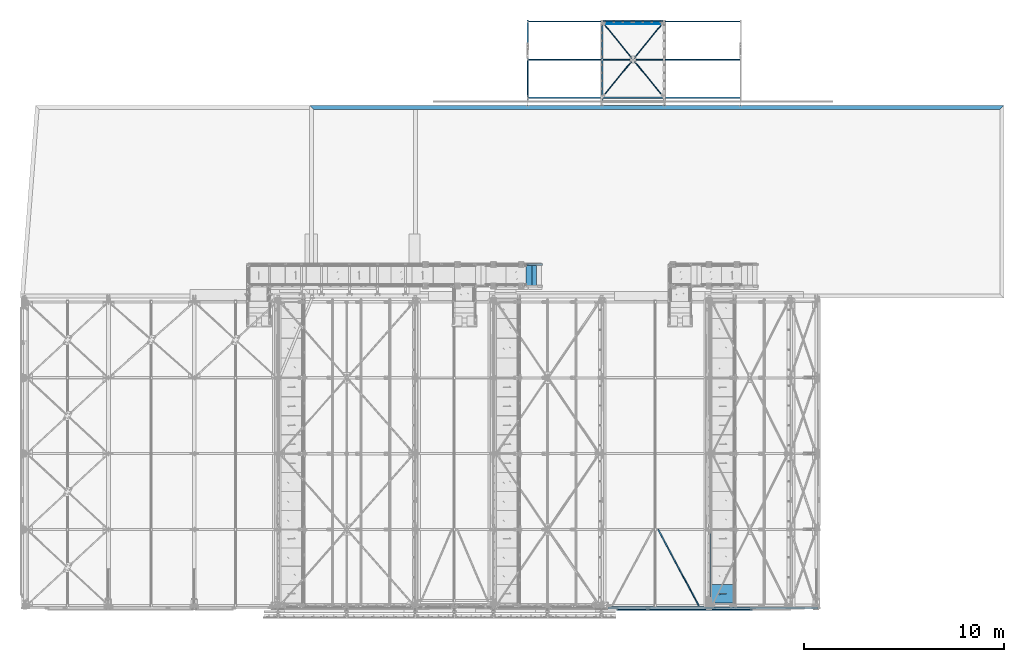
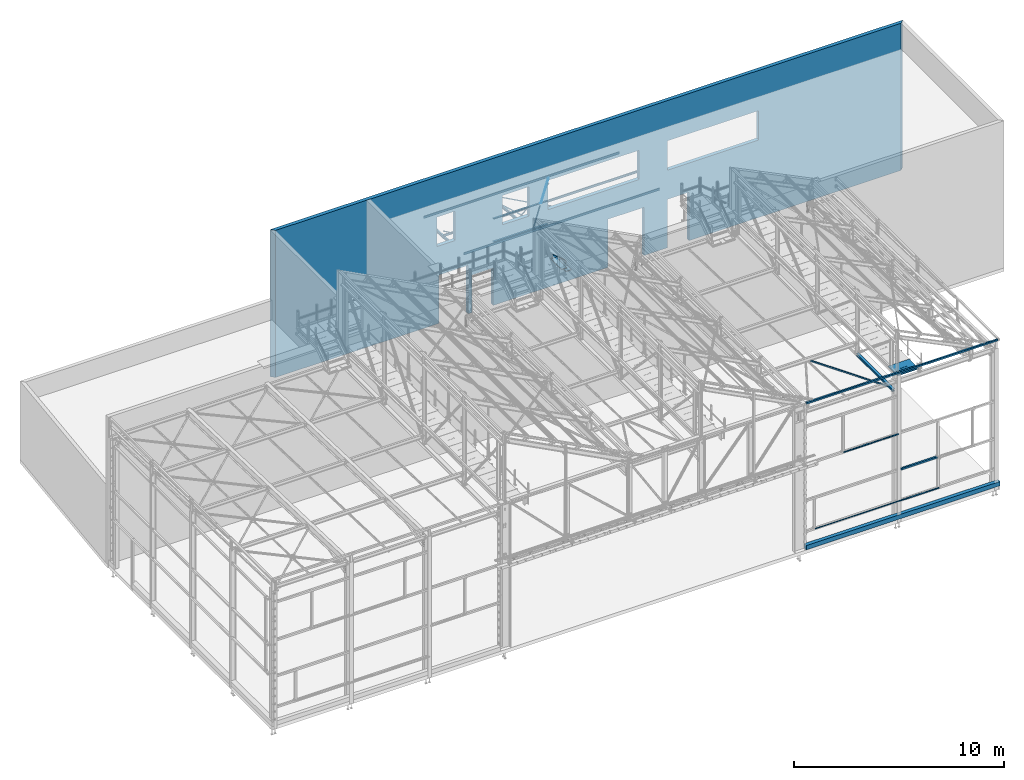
# One storey, part 54 of 362: 23 beams, 4 members, 27 elements without a shape of their own.
"""IFC2X3 building model written with IfcOpenShell, lengths in millimetres."""

from ifc_helpers import new_model, si_unit, frame, frame_2d, origin_with_axes, origin_2d_with_axis, place, context, subcontext, project, spatial, polyline, circle_curve, parameter, trimmed, segment, composite_curve, rectangle, hollow_rectangle, hollow_circle, i_section, l_section, u_section, outline, extrude, boolean, clip, halfspace, material, type_object, element, aggregate, save


model = new_model("IFC2X3")

# Units and contexts
model_context = context("Model", 3, precision=1e-05, world=origin_with_axes())
body_context = subcontext(model_context, "Body", "Model", "MODEL_VIEW")
ifc_project = project(units=[si_unit("LENGTHUNIT", "METRE", prefix="MILLI"), si_unit("AREAUNIT", "SQUARE_METRE"), si_unit("VOLUMEUNIT", "CUBIC_METRE"), si_unit("MASSUNIT", "GRAM", prefix="KILO"), si_unit("TIMEUNIT", "SECOND"), si_unit("PLANEANGLEUNIT", "RADIAN"), si_unit("SOLIDANGLEUNIT", "STERADIAN"), si_unit("THERMODYNAMICTEMPERATUREUNIT", "DEGREE_CELSIUS"), si_unit("LUMINOUSINTENSITYUNIT", "LUMEN")], contexts=[model_context])

# Site, building, storey
site_placement = place(None, origin_with_axes())
site = spatial("IfcSite", under=ifc_project, at=site_placement, Name="Undefined", CompositionType="ELEMENT")
building_placement = place(site_placement, origin_with_axes())
building = spatial("IfcBuilding", under=site, at=building_placement, Name="Undefined", CompositionType="ELEMENT")
storey_placement = place(building_placement, origin_with_axes())
storey = spatial("IfcBuildingStorey", under=building, at=storey_placement, Name="Undefined", CompositionType="ELEMENT", Elevation=0.0)

# Assembly, beam
assembly_1_placement = place(storey_placement, origin_with_axes())
assembly_1 = element("IfcElementAssembly", 1, at=assembly_1_placement, inside=storey, AssemblyPlace="NOTDEFINED", PredefinedType="NOTDEFINED")
ifc_material_1 = material(Name="Undefined/S235-E24")
beam_type_1 = type_object("IfcBeamType", Name="L50*5", PredefinedType="NOTDEFINED")
beam_1_placement = place(assembly_1_placement, frame((33741.464794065, -6.80950368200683, 7825.10982356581), z_axis=(0.882450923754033, 0.470172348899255, -0.0147759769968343), x_axis=(-0.470404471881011, 0.882015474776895, -0.0277188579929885)))
beam_1 = element("IfcBeam", 2, at=beam_1_placement, type_object=beam_type_1, material=ifc_material_1, Name="LIERNE", ObjectType="L50*5", context=body_context, shape_type="SweptSolid", body=[
    extrude(l_section(Depth=50.0, Width=50.0, Thickness=5.0, FilletRadius=7.0, EdgeRadius=3.5, at=origin_2d_with_axis()), frame((4311.66025859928, -2.99181530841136e-14, 1.4211122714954e-13), z_axis=(-1.0, 0.0, 0.0), x_axis=(0.0, -1.0, 0.0)), (0.0, 0.0, 1.0), 4311.66),
])
aggregate(assembly_1, [beam_1])

# Assembly, member
assembly_2_placement = place(storey_placement, origin_with_axes())
assembly_2 = element("IfcElementAssembly", 3, at=assembly_2_placement, inside=storey, AssemblyPlace="NOTDEFINED", PredefinedType="NOTDEFINED")
ifc_material_2 = material(Name="Undefined/S275-E28")
member_type_1 = type_object("IfcMemberType", Name="UPN260", PredefinedType="NOTDEFINED")
member_1_placement = place(assembly_2_placement, frame((25121.7760182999, 17074.9998774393, 8010.13117439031), z_axis=(-0.640184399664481, 0.0, -0.768221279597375), x_axis=(0.768221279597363, 0.0, -0.640184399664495)))
member_1 = element("IfcMember", 4, at=member_1_placement, type_object=member_type_1, material=ifc_material_2, Name="LIMON", ObjectType="UPN260", context=body_context, shape_type="Clipping", body=[
    clip(clip(clip(extrude(u_section(Depth=260.0, FlangeWidth=90.0, WebThickness=10.0, FlangeThickness=14.0, FilletRadius=14.0, EdgeRadius=7.0, FlangeSlope=0.0798299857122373, at=origin_2d_with_axis()), frame((1142.89283280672, 0.0, 1.26886593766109e-13), z_axis=(-1.0, 0.0, 0.0), x_axis=(0.0, -1.0, 0.0)), (0.0, 0.0, 1.0), 1237.09), halfspace(frame((897.20366260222, 45.0, -149.914659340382), z_axis=(0.768221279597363, 0.0, -0.640184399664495), x_axis=(0.640184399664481, 0.0, 0.768221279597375)), False)), halfspace(frame((1215.15534850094, 45.0, -189.778996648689), z_axis=(0.640184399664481, 0.0, 0.768221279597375), x_axis=(-0.768221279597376, 0.0, 0.640184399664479)), False)), halfspace(frame((94.1329831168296, 1045.00000000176, 130.000000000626), z_axis=(-0.940271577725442, 0.0, 0.340425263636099), x_axis=(0.0, -1.0, 0.0)), False)),
])
aggregate(assembly_2, [member_1])

# Assembly, beam
assembly_3_placement = place(storey_placement, origin_with_axes())
assembly_3 = element("IfcElementAssembly", 5, at=assembly_3_placement, inside=storey, Name="MARCHE", AssemblyPlace="NOTDEFINED", PredefinedType="NOTDEFINED")
beam_type_2 = type_object("IfcBeamType", Name="PL30*994", PredefinedType="NOTDEFINED")
beam_2_placement = place(assembly_3_placement, frame((25624.9999902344, 16530.001494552, 7695.0), z_axis=(0.0, 1.0, 0.0), x_axis=(-1.0, 0.0, 0.0)))
beam_2 = element("IfcBeam", 6, at=beam_2_placement, type_object=beam_type_2, material=ifc_material_1, Name="MARCHE", ObjectType="PL30*994", context=body_context, shape_type="SweptSolid", body=[
    extrude(rectangle(XDim=30.0, YDim=994.0, at=origin_2d_with_axis()), frame((290.0, 0.0, 0.0), z_axis=(-1.0, 0.0, 0.0), x_axis=(0.0, -1.0, 0.0)), (0.0, 0.0, 1.0), 290.0),
])
aggregate(assembly_3, [beam_2])

assembly_4_placement = place(storey_placement, origin_with_axes())
assembly_4 = element("IfcElementAssembly", 7, at=assembly_4_placement, inside=storey, Name="MARCHE", AssemblyPlace="NOTDEFINED", PredefinedType="NOTDEFINED")
beam_3_placement = place(assembly_4_placement, frame((25384.9999902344, 16530.001494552, 7894.9999407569), z_axis=(0.0, 1.0, 0.0), x_axis=(-1.0, 0.0, 0.0)))
beam_3 = element("IfcBeam", 8, at=beam_3_placement, type_object=beam_type_2, material=ifc_material_1, Name="MARCHE", ObjectType="PL30*994", context=body_context, shape_type="SweptSolid", body=[
    extrude(rectangle(XDim=30.0, YDim=994.0, at=origin_2d_with_axis()), frame((290.0, 0.0, 0.0), z_axis=(-1.0, 0.0, 0.0), x_axis=(0.0, -1.0, 0.0)), (0.0, 0.0, 1.0), 290.0),
])
aggregate(assembly_4, [beam_3])

assembly_5_placement = place(storey_placement, origin_with_axes())
assembly_5 = element("IfcElementAssembly", 9, at=assembly_5_placement, inside=storey, Name="LISSE", AssemblyPlace="NOTDEFINED", PredefinedType="NOTDEFINED")
beam_type_3 = type_object("IfcBeamType", Name="UPF-100*50*4", PredefinedType="NOTDEFINED")
beam_4_placement = place(assembly_5_placement, frame((31952.9999389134, 29270.0000892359, 1465.0), z_axis=(0.0, 1.0, 0.0), x_axis=(-1.0, 0.0, 0.0)))
beam_4 = element("IfcBeam", 10, at=beam_4_placement, type_object=beam_type_3, material=ifc_material_1, Name="LISSE", ObjectType="UPF-100*50*4", context=body_context, shape_type="SweptSolid", body=[
    extrude(u_section(Depth=100.0, FlangeWidth=50.0, WebThickness=4.0, FlangeThickness=4.0, at=origin_2d_with_axis()), frame((2999.99999402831, 0.0, 0.0), z_axis=(-1.0, 0.0, 0.0), x_axis=(0.0, -1.0, 0.0)), (0.0, 0.0, 1.0), 3000.0),
])
aggregate(assembly_5, [beam_4])

assembly_6_placement = place(storey_placement, origin_with_axes())
assembly_6 = element("IfcElementAssembly", 11, at=assembly_6_placement, inside=storey, Name="LISSE", AssemblyPlace="NOTDEFINED", PredefinedType="NOTDEFINED")
beam_5_placement = place(assembly_6_placement, frame((31952.9999389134, 29270.0000892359, 124.999999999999), z_axis=(0.0, 1.0, 0.0), x_axis=(-1.0, 0.0, 0.0)))
beam_5 = element("IfcBeam", 12, at=beam_5_placement, type_object=beam_type_3, material=ifc_material_1, Name="LISSE", ObjectType="UPF-100*50*4", context=body_context, shape_type="SweptSolid", body=[
    extrude(u_section(Depth=100.0, FlangeWidth=50.0, WebThickness=4.0, FlangeThickness=4.0, at=origin_2d_with_axis()), frame((2999.99999402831, 0.0, 0.0), z_axis=(-1.0, 0.0, 0.0), x_axis=(0.0, -1.0, 0.0)), (0.0, 0.0, 1.0), 3000.0),
])
aggregate(assembly_6, [beam_5])

assembly_7_placement = place(storey_placement, origin_with_axes())
assembly_7 = element("IfcElementAssembly", 13, at=assembly_7_placement, inside=storey, Name="LISSE", AssemblyPlace="NOTDEFINED", PredefinedType="NOTDEFINED")
beam_type_4 = type_object("IfcBeamType", Name="TUBE-C-100*100*4", PredefinedType="NOTDEFINED")
beam_6_placement = place(assembly_7_placement, frame((34384.9999991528, -129.999801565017, 2849.99996535), z_axis=(0.0, 0.0, -1.0), x_axis=(1.0, 0.0, 0.0)))
beam_6 = element("IfcBeam", 14, at=beam_6_placement, type_object=beam_type_4, material=ifc_material_1, Name="LISSE CHASSIS", ObjectType="TUBE-C-100*100*4", context=body_context, shape_type="SweptSolid", body=[
    extrude(hollow_rectangle(XDim=100.0, YDim=100.0, WallThickness=4.0, InnerFilletRadius=4.0, OuterFilletRadius=8.0, at=origin_2d_with_axis()), frame((2005.00258543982, 5.68434172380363e-14, 0.0), z_axis=(-1.0, 0.0, 0.0), x_axis=(0.0, -1.0, 0.0)), (0.0, 0.0, 1.0), 2005.0),
])
aggregate(assembly_7, [beam_6])

assembly_8_placement = place(storey_placement, origin_with_axes())
assembly_8 = element("IfcElementAssembly", 15, at=assembly_8_placement, inside=storey, Name="LISSE", AssemblyPlace="NOTDEFINED", PredefinedType="NOTDEFINED")
beam_7_placement = place(assembly_8_placement, frame((29190.0, -130.0, 8500.0), z_axis=(0.0, 0.0, 1.0), x_axis=(1.0, 0.0, 0.0)))
beam_7 = element("IfcBeam", 16, at=beam_7_placement, type_object=beam_type_4, material=ifc_material_1, Name="LISSE ACROTERE", ObjectType="TUBE-C-100*100*4", context=body_context, shape_type="SweptSolid", body=[
    extrude(hollow_rectangle(XDim=100.0, YDim=100.0, WallThickness=4.0, InnerFilletRadius=4.0, OuterFilletRadius=8.0, at=origin_2d_with_axis()), frame((10525.0, 0.0, 0.0), z_axis=(-1.0, 0.0, 0.0), x_axis=(0.0, -1.0, 0.0)), (0.0, 0.0, 1.0), 10525.0),
])
aggregate(assembly_8, [beam_7])

assembly_9_placement = place(storey_placement, origin_with_axes())
assembly_9 = element("IfcElementAssembly", 17, at=assembly_9_placement, inside=storey, AssemblyPlace="NOTDEFINED", PredefinedType="NOTDEFINED")
beam_type_5 = type_object("IfcBeamType", Name="L40*4", PredefinedType="NOTDEFINED")
beam_8_placement = place(assembly_9_placement, frame((30451.4469799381, 27335.0746857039, 2960.81333331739), z_axis=(0.776487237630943, -0.629270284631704, 0.0329617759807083), x_axis=(-0.630132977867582, -0.775424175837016, 0.0406174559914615)))
beam_8 = element("IfcBeam", 18, at=beam_8_placement, type_object=beam_type_5, material=ifc_material_1, Name="STABILITE CVT", ObjectType="L40*4", context=body_context, shape_type="Clipping", body=[
    clip(clip(extrude(l_section(Depth=40.0, Width=40.0, Thickness=4.0, FilletRadius=6.0, EdgeRadius=3.0, at=origin_2d_with_axis()), frame((2362.85080746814, -9.09494701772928e-13, -1.10316738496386e-12), z_axis=(-1.0, 0.0, 0.0), x_axis=(0.0, -1.0, 0.0)), (0.0, 0.0, 1.0), 2298.17), halfspace(frame((2320.08744063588, 182.999996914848, -19.9999998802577), z_axis=(1.0, 0.0, 0.0), x_axis=(0.0, -1.0, 0.0)), False)), halfspace(frame((107.441568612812, 182.999997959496, -19.9999998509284), z_axis=(1.0, 0.0, 0.0), x_axis=(0.0, -1.0, 0.0)), True)),
])
aggregate(assembly_9, [beam_8])

assembly_10_placement = place(storey_placement, origin_with_axes())
assembly_10 = element("IfcElementAssembly", 19, at=assembly_10_placement, inside=storey, AssemblyPlace="NOTDEFINED", PredefinedType="NOTDEFINED")
beam_9_placement = place(assembly_10_placement, frame((30454.5529285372, 27335.0746863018, 2960.81333329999), z_axis=(-3.30331196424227e-10, 0.0523092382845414, 0.998630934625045), x_axis=(0.630132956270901, -0.775424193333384, 0.0406174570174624)))
beam_9 = element("IfcBeam", 20, at=beam_9_placement, type_object=beam_type_5, material=ifc_material_1, Name="STABILITE CVT", ObjectType="L40*4", context=body_context, shape_type="Clipping", body=[
    clip(clip(extrude(l_section(Depth=40.0, Width=40.0, Thickness=4.0, FilletRadius=6.0, EdgeRadius=3.0, at=origin_2d_with_axis()), frame((2362.85080746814, -9.09494701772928e-13, -1.10316738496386e-12), z_axis=(-1.0, 0.0, 0.0), x_axis=(0.0, -1.0, 0.0)), (0.0, 0.0, 1.0), 2298.17), halfspace(frame((2320.08744489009, 19.9999999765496, -182.999998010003), z_axis=(-1.0, 0.0, 0.0), x_axis=(0.0, 0.0, 1.0)), True)), halfspace(frame((107.441569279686, 19.9999999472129, -182.999998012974), z_axis=(-1.0, 0.0, 0.0), x_axis=(0.0, 0.0, 1.0)), False)),
])
aggregate(assembly_10, [beam_9])

assembly_11_placement = place(storey_placement, origin_with_axes())
assembly_11 = element("IfcElementAssembly", 21, at=assembly_11_placement, inside=storey, AssemblyPlace="NOTDEFINED", PredefinedType="NOTDEFINED")
beam_10_placement = place(assembly_11_placement, frame((28901.4469646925, 29239.9446364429, 2861.03443346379), z_axis=(0.776487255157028, 0.629270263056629, -0.0329617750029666), x_axis=(0.630132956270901, -0.775424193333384, 0.0406174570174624)))
beam_10 = element("IfcBeam", 22, at=beam_10_placement, type_object=beam_type_5, material=ifc_material_1, Name="STABILITE CVT", ObjectType="L40*4", context=body_context, shape_type="Clipping", body=[
    clip(clip(extrude(l_section(Depth=40.0, Width=40.0, Thickness=4.0, FilletRadius=6.0, EdgeRadius=3.0, at=origin_2d_with_axis()), frame((2393.69387448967, 0.0, 2.42396172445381e-13), z_axis=(-1.0, 0.0, 0.0), x_axis=(0.0, -1.0, 0.0)), (0.0, 0.0, 1.0), 2295.32), halfspace(frame((2352.35665650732, 182.999998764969, -20.0000000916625), z_axis=(1.0, 0.0, 0.0), x_axis=(0.0, -1.0, 0.0)), False)), halfspace(frame((139.710817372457, 182.999998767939, -20.0000001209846), z_axis=(1.0, 0.0, 0.0), x_axis=(0.0, -1.0, 0.0)), True)),
])
aggregate(assembly_11, [beam_10])

assembly_12_placement = place(storey_placement, origin_with_axes())
assembly_12 = element("IfcElementAssembly", 23, at=assembly_12_placement, inside=storey, AssemblyPlace="NOTDEFINED", PredefinedType="NOTDEFINED")
beam_11_placement = place(assembly_12_placement, frame((32004.5529154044, 29239.9446581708, 2861.03443352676), z_axis=(-3.30331196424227e-10, 0.0523092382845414, 0.998630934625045), x_axis=(-0.630132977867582, -0.775424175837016, 0.0406174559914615)))
beam_11 = element("IfcBeam", 24, at=beam_11_placement, type_object=beam_type_5, material=ifc_material_1, Name="STABILITE CVT", ObjectType="L40*4", context=body_context, shape_type="Clipping", body=[
    clip(clip(extrude(l_section(Depth=40.0, Width=40.0, Thickness=4.0, FilletRadius=6.0, EdgeRadius=3.0, at=origin_2d_with_axis()), frame((2393.69387448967, 0.0, 2.42396172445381e-13), z_axis=(-1.0, 0.0, 0.0), x_axis=(0.0, -1.0, 0.0)), (0.0, 0.0, 1.0), 2295.32), halfspace(frame((2352.35665617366, 20.0000000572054, -182.999998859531), z_axis=(-1.0, 0.0, 0.0), x_axis=(0.0, 0.0, 1.0)), True)), halfspace(frame((139.710821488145, 20.0000000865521, -182.999999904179), z_axis=(-1.0, 0.0, 0.0), x_axis=(0.0, 0.0, 1.0)), False)),
])
aggregate(assembly_12, [beam_11])

# Assembly, member
assembly_13_placement = place(storey_placement, origin_with_axes())
assembly_13 = element("IfcElementAssembly", 25, at=assembly_13_placement, inside=storey, AssemblyPlace="NOTDEFINED", PredefinedType="NOTDEFINED")
member_type_2 = type_object("IfcMemberType", Name="TUBE-60.3*3.2", PredefinedType="NOTDEFINED")
member_2_placement = place(assembly_13_placement, frame((25175.0000296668, 25040.0000675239, 4330.0), z_axis=(1.0, 0.0, 0.0), x_axis=(0.0, 0.902342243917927, -0.431020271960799)))
member_2 = element("IfcMember", 26, at=member_2_placement, type_object=member_type_2, material=ifc_material_1, Name="BUTON", ObjectType="TUBE-60.3*3.2", context=body_context, shape_type="CSG", body=[
    boolean("DIFFERENCE", boolean("DIFFERENCE", boolean("DIFFERENCE", boolean("DIFFERENCE", extrude(hollow_circle(Radius=30.14999962, WallThickness=3.200000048, at=origin_2d_with_axis()), frame((3314.61716229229, 0.0, 0.0), z_axis=(-1.0, 0.0, 0.0), x_axis=(0.0, -1.0, 0.0)), (0.0, 0.0, 1.0), 3314.62), extrude(outline(composite_curve([segment(polyline([(0.0, 0.0), (80.00000000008, 8.00355337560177e-11), (80.0000000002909, 219.999999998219)]), True, "CONTINUOUS"), segment(trimmed(circle_curve(frame_2d((40.0000000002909, 219.999999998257), x_axis=(1.0, 0.0)), 40.0), [parameter(0.0)], [parameter(1.57079632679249)], True, "PARAMETER"), True, "CONTINUOUS"), segment(trimmed(circle_curve(frame_2d((40.0000000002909, 219.999999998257), x_axis=(0.0, 1.0)), 40.0), [parameter(0.0)], [parameter(1.57079632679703)], True, "PARAMETER"), True, "CONTINUOUS"), segment(polyline([(2.58576339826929e-10, 219.999999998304), (0.0, 0.0)]), True, "CONTINUOUS")], self_intersect=True)), frame((542.05606881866, 40.000004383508, 5.00000007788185), z_axis=(0.0, 0.0, -1.0), x_axis=(0.0, -1.0, 0.0)), (0.0, 0.0, 1.0), 10.0)), extrude(outline(composite_curve([segment(polyline([(0.0, 0.0), (80.00000000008, 8.00355337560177e-11), (80.0000000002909, 219.999999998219)]), True, "CONTINUOUS"), segment(trimmed(circle_curve(frame_2d((40.0000000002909, 219.999999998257), x_axis=(1.0, 0.0)), 40.0), [parameter(0.0)], [parameter(1.57079632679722)], True, "PARAMETER"), True, "CONTINUOUS"), segment(trimmed(circle_curve(frame_2d((40.0000000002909, 219.999999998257), x_axis=(0.0, 1.0)), 40.0), [parameter(0.0)], [parameter(1.57079632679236)], True, "PARAMETER"), True, "CONTINUOUS"), segment(polyline([(2.58576339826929e-10, 219.999999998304), (0.0, 0.0)]), True, "CONTINUOUS")], self_intersect=True)), frame((2534.92452783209, 40.0000043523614, -5.00000035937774), z_axis=(0.0, 0.0, 1.0), x_axis=(0.0, -1.0, 0.0)), (0.0, 0.0, 1.0), 10.0)), halfspace(frame((422.056068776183, 30.14999962, -30.14999962), z_axis=(-1.0, 0.0, 0.0), x_axis=(0.0, 0.0, 1.0)), False)), halfspace(frame((2654.92452778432, -30.14999962, -30.14999962), z_axis=(1.0, 0.0, 0.0), x_axis=(0.0, 0.0, 1.0)), False)),
])
aggregate(assembly_13, [member_2])

# Assembly, beam
assembly_14_placement = place(storey_placement, origin_with_axes())
assembly_14 = element("IfcElementAssembly", 27, at=assembly_14_placement, inside=storey, AssemblyPlace="NOTDEFINED", PredefinedType="NOTDEFINED")
beam_type_6 = type_object("IfcBeamType", Name="TOLE30*910", PredefinedType="NOTDEFINED")
beam_12_placement = place(assembly_14_placement, frame((35536.4916120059, 1035.00033833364, 8115.0), z_axis=(0.0, 0.0, 1.0), x_axis=(-1.0, 0.0, 0.0)))
beam_12 = element("IfcBeam", 28, at=beam_12_placement, type_object=beam_type_6, material=ifc_material_1, Name="CAILLEBOTIS", ObjectType="TOLE30*910", context=body_context, shape_type="CSG", body=[
    boolean("DIFFERENCE", boolean("DIFFERENCE", extrude(outline(polyline([(0.0, 0.0), (1179.99169921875, 0.0), (1179.99169921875, 910.0), (-9.39995516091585e-07, 910.0), (0.0, 0.0)])), frame((0.0, 0.0, -15.0), z_axis=(0.0, 0.0, 1.0), x_axis=(1.0, 0.0, 0.0)), (0.0, 0.0, 1.0), 30.0), extrude(outline(polyline([(0.0, 0.0), (33.4972381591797, 0.0), (33.4972381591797, 204.999664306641), (0.0, 204.999664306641), (0.0, 0.0)])), frame((1179.99169921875, 705.000337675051, 17.5), z_axis=(0.0, 0.0, -1.0), x_axis=(-1.0, 0.0, 0.0)), (0.0, 0.0, 1.0), 35.0)), extrude(outline(polyline([(0.0, 0.0), (9.99999999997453, 6.91215973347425e-11), (10.0000000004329, 75.8578643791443), (282.842712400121, -196.984848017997), (282.842712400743, -96.9848480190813), (272.842712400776, -96.9848480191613), (272.842712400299, -172.842712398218), (0.0, 100.0), (0.0, 0.0)])), frame((724.285170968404, 520.710678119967, -17.5), z_axis=(0.0, 0.0, 1.0), x_axis=(-0.707106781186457, -0.707106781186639, 0.0)), (0.0, 0.0, 1.0), 35.0)),
])
aggregate(assembly_14, [beam_12])

assembly_15_placement = place(storey_placement, origin_with_axes())
assembly_15 = element("IfcElementAssembly", 29, at=assembly_15_placement, inside=storey, Name="LISSE", AssemblyPlace="NOTDEFINED", PredefinedType="NOTDEFINED")
beam_type_7 = type_object("IfcBeamType", Name="L70*7", PredefinedType="NOTDEFINED")
beam_13_placement = place(assembly_15_placement, frame((34290.0, -215.000007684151, 1065.0), z_axis=(0.0, -1.0, 0.0), x_axis=(1.0, 0.0, 0.0)))
beam_13 = element("IfcBeam", 30, at=beam_13_placement, type_object=beam_type_7, material=ifc_material_1, Name="SUPPORT", ObjectType="L70*7", context=body_context, shape_type="SweptSolid", body=[
    extrude(l_section(Depth=70.0, Width=70.0, Thickness=7.0, FilletRadius=9.0, EdgeRadius=4.5, at=origin_2d_with_axis()), frame((2154.99781573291, 0.0, 0.0), z_axis=(-1.0, 0.0, 0.0), x_axis=(0.0, -1.0, 0.0)), (0.0, 0.0, 1.0), 2155.0),
])
aggregate(assembly_15, [beam_13])

assembly_16_placement = place(storey_placement, origin_with_axes())
assembly_16 = element("IfcElementAssembly", 31, at=assembly_16_placement, inside=storey, Name="LISSE", AssemblyPlace="NOTDEFINED", PredefinedType="NOTDEFINED")
beam_14_placement = place(assembly_16_placement, frame((29645.000000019, -215.000007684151, 1065.0), z_axis=(0.0, -1.0, 0.0), x_axis=(1.0, 0.0, 0.0)))
beam_14 = element("IfcBeam", 32, at=beam_14_placement, type_object=beam_type_7, material=ifc_material_1, Name="SUPPORT", ObjectType="L70*7", context=body_context, shape_type="SweptSolid", body=[
    extrude(l_section(Depth=70.0, Width=70.0, Thickness=7.0, FilletRadius=9.0, EdgeRadius=4.5, at=origin_2d_with_axis()), frame((4624.99999998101, 0.0, 0.0), z_axis=(-1.0, 0.0, 0.0), x_axis=(0.0, -1.0, 0.0)), (0.0, 0.0, 1.0), 4625.0),
])
aggregate(assembly_16, [beam_14])

assembly_17_placement = place(storey_placement, origin_with_axes())
assembly_17 = element("IfcElementAssembly", 33, at=assembly_17_placement, inside=storey, Name="LISSE", AssemblyPlace="NOTDEFINED", PredefinedType="NOTDEFINED")
beam_15_placement = place(assembly_17_placement, frame((31230.000000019, -215.000007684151, 4965.0), z_axis=(0.0, -1.0, 0.0), x_axis=(1.0, 0.0, 0.0)))
beam_15 = element("IfcBeam", 34, at=beam_15_placement, type_object=beam_type_7, material=ifc_material_1, Name="SUPPORT", ObjectType="L70*7", context=body_context, shape_type="SweptSolid", body=[
    extrude(l_section(Depth=70.0, Width=70.0, Thickness=7.0, FilletRadius=9.0, EdgeRadius=4.5, at=origin_2d_with_axis()), frame((2999.99781571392, 0.0, 0.0), z_axis=(-1.0, 0.0, 0.0), x_axis=(0.0, -1.0, 0.0)), (0.0, 0.0, 1.0), 3000.0),
])
aggregate(assembly_17, [beam_15])

assembly_18_placement = place(storey_placement, origin_with_axes())
assembly_18 = element("IfcElementAssembly", 35, at=assembly_18_placement, inside=storey, AssemblyPlace="NOTDEFINED", PredefinedType="NOTDEFINED")
beam_type_8 = type_object("IfcBeamType", Name="HEA140", PredefinedType="NOTDEFINED")
beam_16_placement = place(assembly_18_placement, frame((34279.9999999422, 3795.00000000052, 7183.50000000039), z_axis=(0.0, 0.0, 1.0), x_axis=(0.0, -1.0, 0.0)))
beam_16 = element("IfcBeam", 36, at=beam_16_placement, type_object=beam_type_8, material=ifc_material_2, Name="LONGERON", ObjectType="HEA140", context=body_context, shape_type="SweptSolid", body=[
    extrude(i_section(OverallWidth=140.0, OverallDepth=133.0, WebThickness=5.5, FlangeThickness=8.5, FilletRadius=12.0, at=origin_2d_with_axis()), frame((3465.00016060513, 0.0, 0.0), z_axis=(-1.0, 0.0, 0.0), x_axis=(0.0, -1.0, 0.0)), (0.0, 0.0, 1.0), 3465.0),
])
aggregate(assembly_18, [beam_16])

# Assembly, member
assembly_19_placement = place(storey_placement, origin_with_axes())
assembly_19 = element("IfcElementAssembly", 37, at=assembly_19_placement, inside=storey, AssemblyPlace="NOTDEFINED", PredefinedType="NOTDEFINED")
member_type_3 = type_object("IfcMemberType", Name="L40*4", PredefinedType="NOTDEFINED")
member_3_placement = place(assembly_19_placement, frame((28901.6659183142, 29180.0000662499, 2623.50982973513), z_axis=(0.0, 1.0, 0.0), x_axis=(0.745084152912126, 0.0, -0.666970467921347)))
member_3 = element("IfcMember", 38, at=member_3_placement, type_object=member_type_3, material=ifc_material_1, Name="STABILTE", ObjectType="L40*4", context=body_context, shape_type="Clipping", body=[
    clip(clip(extrude(l_section(Depth=40.0, Width=40.0, Thickness=4.0, FilletRadius=6.0, EdgeRadius=3.0, at=origin_2d_with_axis()), frame((4160.60400395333, 0.0, -7.27595761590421e-12), z_axis=(-1.0, 0.0, 0.0), x_axis=(0.0, -1.0, 0.0)), (0.0, 0.0, 1.0), 4160.6), halfspace(frame((4072.67344886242, -20.0, -20.0000000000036), z_axis=(1.0, 0.0, 0.0), x_axis=(0.0, 0.0, 1.0)), False)), halfspace(frame((87.9306736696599, 20.0, -20.0000000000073), z_axis=(-1.0, 0.0, 0.0), x_axis=(0.0, 0.0, 1.0)), False)),
])
aggregate(assembly_19, [member_3])

assembly_20_placement = place(storey_placement, origin_with_axes())
assembly_20 = element("IfcElementAssembly", 39, at=assembly_20_placement, inside=storey, AssemblyPlace="NOTDEFINED", PredefinedType="NOTDEFINED")
member_4_placement = place(assembly_20_placement, frame((28904.3339113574, 29135.0000662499, -151.490168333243), z_axis=(-0.666970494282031, 0.0, 0.745084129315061), x_axis=(0.745084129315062, 0.0, 0.66697049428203)))
member_4 = element("IfcMember", 40, at=member_4_placement, type_object=member_type_3, material=ifc_material_1, Name="STABILTE", ObjectType="L40*4", context=body_context, shape_type="Clipping", body=[
    clip(clip(extrude(l_section(Depth=40.0, Width=40.0, Thickness=4.0, FilletRadius=6.0, EdgeRadius=3.0, at=origin_2d_with_axis()), frame((4160.60383853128, -1.72078541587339e-21, -2.30959908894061e-13), z_axis=(-1.0, 0.0, 0.0), x_axis=(0.0, -1.0, 0.0)), (0.0, 0.0, 1.0), 4160.6), halfspace(frame((87.9305276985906, 20.0, -20.0), z_axis=(-1.0, 0.0, 0.0), x_axis=(0.0, 0.0, 1.0)), False)), halfspace(frame((4072.67337888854, -20.0, -20.0), z_axis=(1.0, 0.0, 0.0), x_axis=(0.0, 0.0, 1.0)), False)),
])
aggregate(assembly_20, [member_4])

# Assembly, beam
assembly_21_placement = place(storey_placement, origin_with_axes())
assembly_21 = element("IfcElementAssembly", 41, at=assembly_21_placement, inside=storey, Name="POUTRE", AssemblyPlace="NOTDEFINED", PredefinedType="REINFORCEMENT_UNIT")
ifc_material_3 = material(Name="CONCRETE/C25/30")
beam_type_9 = type_object("IfcBeamType", Name="250*200", PredefinedType="NOTDEFINED")
beam_17_placement = place(assembly_21_placement, frame((29179.9971504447, -79.9999948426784, 124.999999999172), z_axis=(0.0, 0.0, 1.0), x_axis=(1.0, 0.0, 0.0)))
beam_17 = element("IfcBeam", 42, at=beam_17_placement, type_object=beam_type_9, material=ifc_material_3, Name="POUTRE", ObjectType="250*200", context=body_context, shape_type="SweptSolid", body=[
    extrude(rectangle(XDim=200.0, YDim=250.0, at=origin_2d_with_axis()), frame((10645.0, 0.0, 0.0), z_axis=(-1.0, 0.0, 0.0), x_axis=(0.0, -1.0, 0.0)), (0.0, 0.0, 1.0), 10645.0),
])
aggregate(assembly_21, [beam_17])

assembly_22_placement = place(storey_placement, origin_with_axes())
assembly_22 = element("IfcElementAssembly", 43, at=assembly_22_placement, inside=storey, Name="POUTRE", AssemblyPlace="NOTDEFINED", PredefinedType="REINFORCEMENT_UNIT")
beam_type_10 = type_object("IfcBeamType", Name="8550*200", PredefinedType="NOTDEFINED")
beam_18_placement = place(assembly_22_placement, frame((49032.9999999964, 24939.9999999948, 4275.0), z_axis=(0.0, 0.0, 1.0), x_axis=(-1.0, 0.0, 0.0)))
solid = boolean("DIFFERENCE", boolean("DIFFERENCE", boolean("DIFFERENCE", boolean("DIFFERENCE", boolean("DIFFERENCE", boolean("DIFFERENCE", boolean("DIFFERENCE", boolean("DIFFERENCE", extrude(rectangle(XDim=200.0, YDim=8550.0, at=origin_2d_with_axis()), frame((34879.9999999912, 0.0, 0.0), z_axis=(-1.0, 0.0, 0.0), x_axis=(0.0, -1.0, 0.0)), (0.0, 0.0, 1.0), 34982.0), extrude(outline(polyline([(0.0, 0.0), (1700.0, 0.0), (1700.0, 1000.00000003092), (0.0, 1000.00000003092), (0.0, 0.0)])), frame((24712.9999993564, 103.000023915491, 1935.0), z_axis=(0.0, -1.0, 0.0), x_axis=(0.0, 0.0, -1.0)), (0.0, 0.0, 1.0), 206.0)), extrude(outline(polyline([(0.0, 0.0), (1700.0, 0.0), (1700.0, 1450.00000003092), (0.0, 1450.00000003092), (0.0, 0.0)])), frame((20657.9999993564, 103.000010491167, 1935.0), z_axis=(0.0, -1.0, 0.0), x_axis=(0.0, 0.0, -1.0)), (0.0, 0.0, 1.0), 206.0)), extrude(outline(polyline([(0.0, 0.0), (1700.0, 0.0), (1700.0, 5000.00000003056), (0.0, 5000.00000003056), (0.0, 0.0)])), frame((14593.9999993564, 102.999990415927, 1935.0), z_axis=(0.0, -1.0, 0.0), x_axis=(0.0, 0.0, -1.0)), (0.0, 0.0, 1.0), 206.0)), extrude(outline(polyline([(0.0, 0.0), (1700.0, 0.0), (1700.0, 5000.00000003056), (0.0, 5000.00000003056), (0.0, 0.0)])), frame((13029.9999999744, -103.00001476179, 1935.0), z_axis=(0.0, 1.0, 0.0), x_axis=(0.0, 0.0, -1.0)), (0.0, 0.0, 1.0), 206.0)), extrude(outline(polyline([(0.0, 0.0), (1600.00000003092, 0.0), (1600.00000003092, 2815.0), (3.09228198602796e-08, 2815.0), (0.0, 0.0)])), frame((24007.9999999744, -102.999978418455, -1460.0), z_axis=(0.0, 1.0, 0.0), x_axis=(1.0, 0.0, 0.0)), (0.0, 0.0, 1.0), 206.0)), extrude(outline(polyline([(0.0, 0.0), (1170.00000003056, 0.0), (1170.00000003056, 2815.0), (3.09228198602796e-08, 2815.0), (0.0, 0.0)])), frame((11859.9999999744, -103.000018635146, -1460.0), z_axis=(0.0, 1.0, 0.0), x_axis=(1.0, 0.0, 0.0)), (0.0, 0.0, 1.0), 206.0)), extrude(outline(polyline([(0.0, 0.0), (1990.0, 0.0), (1990.0, 2800.0), (0.0, 2800.0), (0.0, 0.0)])), frame((14330.0000000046, -103.000113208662, -1475.0), z_axis=(0.0, 1.0, 0.0), x_axis=(1.0, 0.0, 0.0)), (0.0, 0.0, 1.0), 206.0)), extrude(outline(polyline([(0.0, 0.0), (1150.00000003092, 0.0), (1150.00000003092, 2180.0), (3.09228198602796e-08, 2180.0), (0.0, 0.0)])), frame((22622.9999999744, -102.999983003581, -2095.0), z_axis=(0.0, 1.0, 0.0), x_axis=(1.0, 0.0, 0.0)), (0.0, 0.0, 1.0), 206.0))
beam_18 = element("IfcBeam", 44, at=beam_18_placement, type_object=beam_type_10, material=ifc_material_3, Name="POUTRE", ObjectType="8550*200", context=body_context, shape_type="CSG", body=[
    boolean("DIFFERENCE", boolean("DIFFERENCE", solid, halfspace(frame((34777.9999999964, -100.00000000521, -4275.0), z_axis=(0.707106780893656, 0.707106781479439, 2.92893673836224e-10), x_axis=(0.0, 0.0, 1.0)), False)), halfspace(frame((0.000287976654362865, -100.00000000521, -4275.0), z_axis=(0.707106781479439, -0.707106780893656, 0.0), x_axis=(0.0, 0.0, 1.0)), True)),
])
aggregate(assembly_22, [beam_18])

assembly_23_placement = place(storey_placement, origin_with_axes())
assembly_23 = element("IfcElementAssembly", 45, at=assembly_23_placement, inside=storey, Name="TRAVERSE", AssemblyPlace="NOTDEFINED", PredefinedType="NOTDEFINED")
beam_type_11 = type_object("IfcBeamType", Name="IPE160", PredefinedType="NOTDEFINED")
beam_19_placement = place(assembly_23_placement, frame((25184.9999703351, 25285.8152378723, 2965.01428514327), z_axis=(-3.30331196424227e-10, 0.0523092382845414, 0.998630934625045), x_axis=(-6.99999093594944e-09, 0.998630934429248, -0.0523092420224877)))
beam_19 = element("IfcBeam", 46, at=beam_19_placement, type_object=beam_type_11, material=ifc_material_2, Name="TRAVERSE", ObjectType="IPE160", context=body_context, shape_type="Clipping", body=[
    clip(clip(extrude(i_section(OverallWidth=82.0, OverallDepth=160.0, WebThickness=5.0, FlangeThickness=7.400000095, FilletRadius=9.0, at=origin_2d_with_axis()), frame((4048.18022580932, -1.1706936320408e-20, 0.0), z_axis=(-1.0, 0.0, 0.0), x_axis=(0.0, -1.0, 0.0)), (0.0, 0.0, 1.0), 4052.45), halfspace(frame((4043.90593900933, -4.63187461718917e-07, -80.0000007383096), z_axis=(-0.998630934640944, 9.89046762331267e-10, -0.0523092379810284), x_axis=(0.0, -1.0, 0.0)), True)), halfspace(frame((4.69101107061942, -6.83940015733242e-09, -9.5556684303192), z_axis=(-0.998630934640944, 9.89046762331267e-10, -0.0523092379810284), x_axis=(0.0, -1.0, 0.0)), False)),
])
aggregate(assembly_23, [beam_19])

assembly_24_placement = place(storey_placement, origin_with_axes())
assembly_24 = element("IfcElementAssembly", 47, at=assembly_24_placement, inside=storey, Name="TRAVERSE", AssemblyPlace="NOTDEFINED", PredefinedType="NOTDEFINED")
beam_20_placement = place(assembly_24_placement, frame((28902.9999703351, 25285.8152378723, 2965.01428514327), z_axis=(-3.30331196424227e-10, 0.0523092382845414, 0.998630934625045), x_axis=(-6.99999093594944e-09, 0.998630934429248, -0.0523092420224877)))
beam_20 = element("IfcBeam", 48, at=beam_20_placement, type_object=beam_type_11, material=ifc_material_2, Name="TRAVERSE", ObjectType="IPE160", context=body_context, shape_type="Clipping", body=[
    clip(clip(extrude(i_section(OverallWidth=82.0, OverallDepth=160.0, WebThickness=5.0, FlangeThickness=7.400000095, FilletRadius=9.0, at=origin_2d_with_axis()), frame((4048.18022580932, -1.1706936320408e-20, 0.0), z_axis=(-1.0, 0.0, 0.0), x_axis=(0.0, -1.0, 0.0)), (0.0, 0.0, 1.0), 4052.45), halfspace(frame((4043.90593900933, -4.63187461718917e-07, -80.0000007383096), z_axis=(-0.998630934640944, 9.89046762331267e-10, -0.0523092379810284), x_axis=(0.0, -1.0, 0.0)), True)), halfspace(frame((4.69101107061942, -6.83940015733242e-09, -9.5556684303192), z_axis=(-0.998630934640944, 9.89046762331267e-10, -0.0523092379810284), x_axis=(0.0, -1.0, 0.0)), False)),
])
aggregate(assembly_24, [beam_20])

assembly_25_placement = place(storey_placement, origin_with_axes())
assembly_25 = element("IfcElementAssembly", 49, at=assembly_25_placement, inside=storey, AssemblyPlace="NOTDEFINED", PredefinedType="NOTDEFINED")
beam_type_12 = type_object("IfcBeamType", Name="IPE120", PredefinedType="NOTDEFINED")
beam_21_placement = place(assembly_25_placement, frame((25134.9999687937, 25428.3645350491, 3097.73934976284), z_axis=(-3.30331196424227e-10, 0.0523092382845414, 0.998630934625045), x_axis=(1.0, 0.0, 0.0)))
beam_21 = element("IfcBeam", 50, at=beam_21_placement, type_object=beam_type_12, material=ifc_material_2, Name="PANNE", ObjectType="IPE120", context=body_context, shape_type="SweptSolid", body=[
    extrude(i_section(OverallWidth=64.0, OverallDepth=120.0, WebThickness=4.400000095, FlangeThickness=6.300000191, FilletRadius=7.0, at=origin_2d_with_axis()), frame((10758.0000000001, -1.7797618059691e-20, -1.11235112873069e-21), z_axis=(-1.0, 0.0, 0.0), x_axis=(0.0, -1.0, 0.0)), (0.0, 0.0, 1.0), 10758.0),
])
aggregate(assembly_25, [beam_21])

assembly_26_placement = place(storey_placement, origin_with_axes())
assembly_26 = element("IfcElementAssembly", 51, at=assembly_26_placement, inside=storey, AssemblyPlace="NOTDEFINED", PredefinedType="NOTDEFINED")
beam_22_placement = place(assembly_26_placement, frame((25134.9999539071, 27335.7515630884, 2997.82860208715), z_axis=(-3.30331196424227e-10, 0.0523092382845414, 0.998630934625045), x_axis=(1.0, 0.0, 0.0)))
beam_22 = element("IfcBeam", 52, at=beam_22_placement, type_object=beam_type_12, material=ifc_material_2, Name="PANNE", ObjectType="IPE120", context=body_context, shape_type="SweptSolid", body=[
    extrude(i_section(OverallWidth=64.0, OverallDepth=120.0, WebThickness=4.400000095, FlangeThickness=6.300000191, FilletRadius=7.0, at=origin_2d_with_axis()), frame((10758.0000000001, -1.7797618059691e-20, -1.11235112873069e-21), z_axis=(-1.0, 0.0, 0.0), x_axis=(0.0, -1.0, 0.0)), (0.0, 0.0, 1.0), 10758.0),
])
aggregate(assembly_26, [beam_22])

assembly_27_placement = place(storey_placement, origin_with_axes())
assembly_27 = element("IfcElementAssembly", 53, at=assembly_27_placement, inside=storey, AssemblyPlace="NOTDEFINED", PredefinedType="NOTDEFINED")
beam_23_placement = place(assembly_27_placement, frame((25134.9999390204, 29243.1385911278, 2897.91785441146), z_axis=(-3.30331196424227e-10, 0.0523092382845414, 0.998630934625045), x_axis=(1.0, 0.0, 0.0)))
beam_23 = element("IfcBeam", 54, at=beam_23_placement, type_object=beam_type_12, material=ifc_material_2, Name="PANNE", ObjectType="IPE120", context=body_context, shape_type="SweptSolid", body=[
    extrude(i_section(OverallWidth=64.0, OverallDepth=120.0, WebThickness=4.400000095, FlangeThickness=6.300000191, FilletRadius=7.0, at=origin_2d_with_axis()), frame((10758.0000000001, -1.7797618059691e-20, -1.11235112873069e-21), z_axis=(-1.0, 0.0, 0.0), x_axis=(0.0, -1.0, 0.0)), (0.0, 0.0, 1.0), 10758.0),
])
aggregate(assembly_27, [beam_23])

save(model, "model.ifc")
